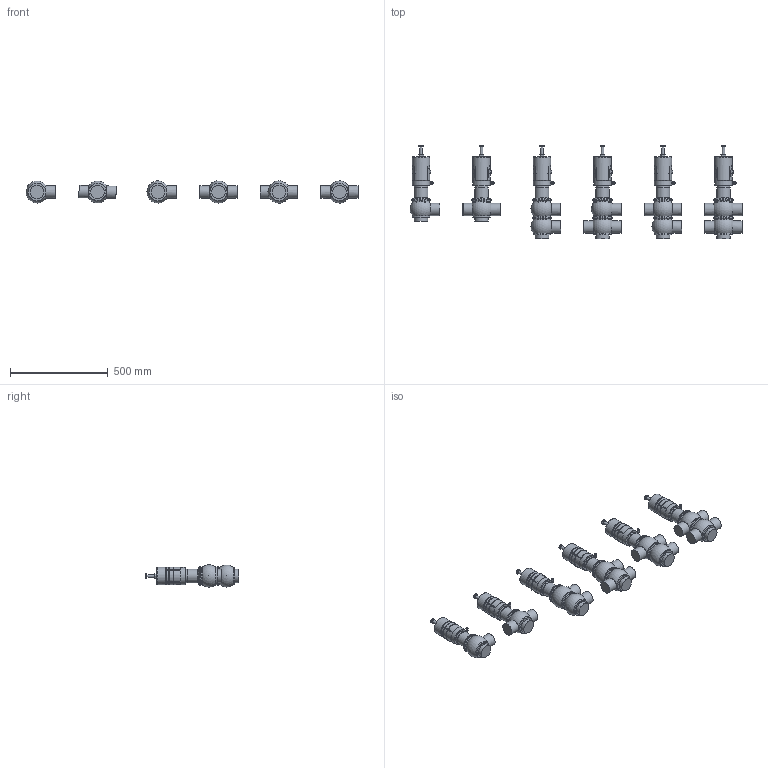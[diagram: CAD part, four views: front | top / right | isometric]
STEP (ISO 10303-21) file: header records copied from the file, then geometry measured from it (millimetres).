
FILE_DESCRIPTION((''),'2;1');
FILE_NAME('\\BV-SRV1\Ufficio tecnico\cad3d\PNEUMATICA\Ing1-1\pne bbzp e derivate\BBZS5\BBZS5-DN0635-CIL83-SAL.iam.step','2009-10-19T10:18:01',(''),(''),'Autodesk Inventor 2010','Autodesk Inventor 2010','');
FILE_SCHEMA(('AUTOMOTIVE_DESIGN { 1 0 10303 214 1 1 1 1 }'));
Length unit declared in the file: millimetre
Products named in the file (7): BBZS5-DN0635-CIL83-SAL; Assemblaggio-DN065; COR-INF-L-SAL-DN63; COR-INF-T-SAL-DN63; COR-SUP-L-SAL-DN63; COR-SUP-T-SAL-DN63; cil 83  tarabile
Assembly tree (22 placements, depth 2):
  BBZS5-DN0635-CIL83-SAL
    Assemblaggio-DN065  x6
    COR-INF-L-SAL-DN63  x3
    COR-INF-T-SAL-DN63  x3
    COR-SUP-L-SAL-DN63  x2
    COR-SUP-T-SAL-DN63  x2
    cil 83  tarabile  x6
Bounding box: 1701.5 x 479.8 x 113.82 mm (x, y, z)
Volume: 17492941.4 mm3; surface area: 1216987.9 mm2
Topology: 22 solids, 52 shells, 1332 faces, 3133 edges, 1890 vertices
Faces by surface type: plane 491, cylinder 349, cone 266, bspline 96, sphere 82, torus 48
Full cylindrical faces by diameter (mm): 4.9 x6, 6 x12, 7 x6, 8.3 x6, 10 x6, 11 x6, 11.5 x6, 14 x18, 19.37 x6, 63.5 x15, 69 x6, 70 x6, 71 x6, 84.813 x18, 86 x12, 86.1 x6, 88.5 x6, 89.5 x6, 90 x26, 98 x20
Entity records: 7871 total; most frequent: CARTESIAN_POINT 2405, DIRECTION 1074, ORIENTED_EDGE 916, AXIS2_PLACEMENT_3D 459, EDGE_CURVE 458, EDGE_LOOP 356, VERTEX_POINT 318, FACE_OUTER_BOUND 251
